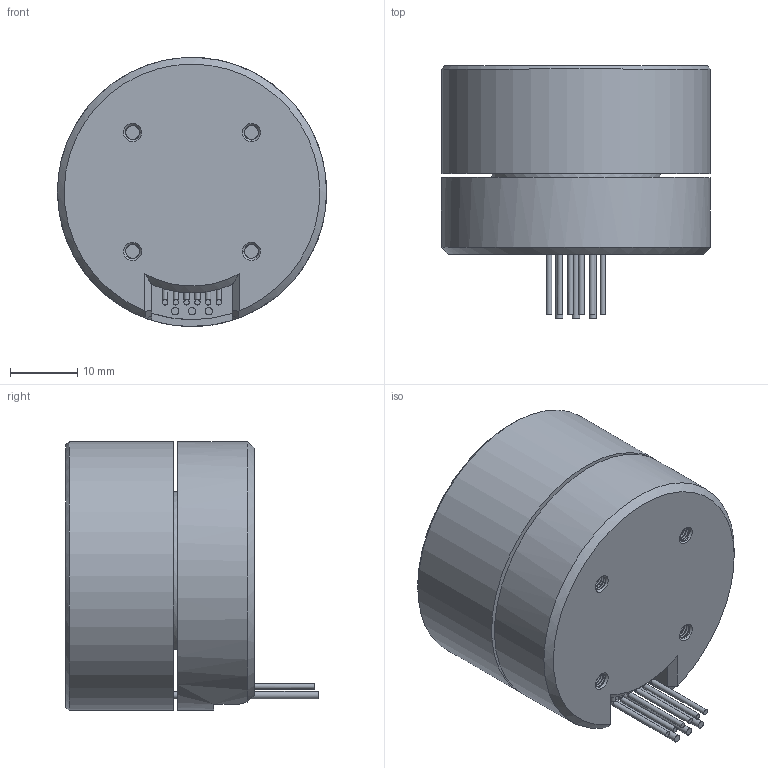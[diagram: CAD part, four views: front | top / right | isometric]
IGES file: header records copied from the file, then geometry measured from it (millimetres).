
Global section: file name: M4021; native system: unknown; preprocessor: unknown; author: unknown; organization: unknown; date: 20191001.092240; units: millimetre
Bounding box: 40 x 37.5 x 39.98 mm (x, y, z)
Volume: 32153.2 mm3; surface area: 9081.1 mm2
Topology: 1 solids, 1 shells, 112 faces, 257 edges, 153 vertices
Faces by surface type: bspline 112
